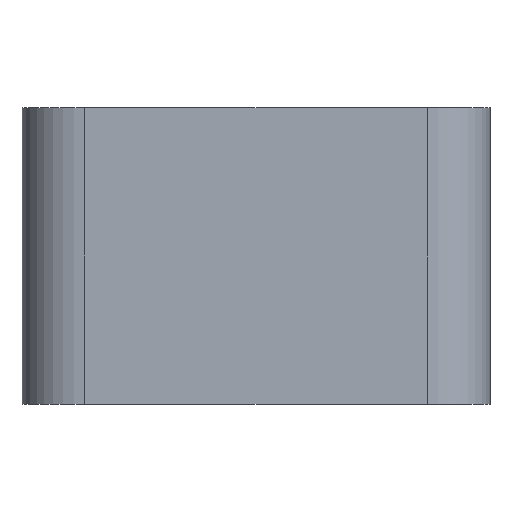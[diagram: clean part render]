
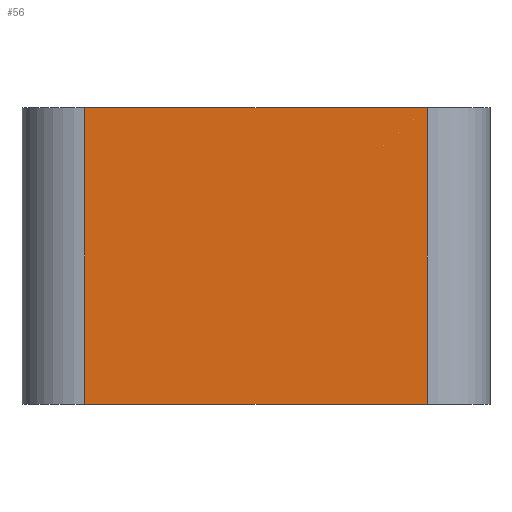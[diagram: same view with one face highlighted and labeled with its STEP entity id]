
A CAD part, front view. The second image highlights one B-rep face of the part: STEP entity #56.
In plain terms, the highlighted planar face has unit normal (0, -1, 0).
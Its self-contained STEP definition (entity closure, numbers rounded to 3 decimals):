
#2 = VECTOR ( 'NONE', #199, 1000. ) ;
#25 = DIRECTION ( 'NONE',  ( 0., 0., -1. ) ) ;
#33 = ORIENTED_EDGE ( 'NONE', *, *, #140, .F. ) ;
#41 = EDGE_LOOP ( 'NONE', ( #225, #214, #33, #204 ) ) ;
#56 = ADVANCED_FACE ( 'NONE', ( #150 ), #268, .F. ) ;
#57 = VECTOR ( 'NONE', #191, 1000. ) ;
#72 = DIRECTION ( 'NONE',  ( 0., 1., 0. ) ) ;
#110 = CARTESIAN_POINT ( 'NONE',  ( 0., -5.5, 26. ) ) ;
#112 = LINE ( 'NONE', #271, #113 ) ;
#113 = VECTOR ( 'NONE', #25, 1000. ) ;
#135 = CARTESIAN_POINT ( 'NONE',  ( 0., -5.5, 0. ) ) ;
#140 = EDGE_CURVE ( 'NONE', #238, #345, #164, .T. ) ;
#146 = DIRECTION ( 'NONE',  ( 0., 0., -1. ) ) ;
#150 = FACE_OUTER_BOUND ( 'NONE', #41, .T. ) ;
#155 = VERTEX_POINT ( 'NONE', #135 ) ;
#160 = LINE ( 'NONE', #260, #228 ) ;
#164 = LINE ( 'NONE', #110, #57 ) ;
#175 = DIRECTION ( 'NONE',  ( 0., 0., 1. ) ) ;
#186 = CARTESIAN_POINT ( 'NONE',  ( 30., -5.5, 0. ) ) ;
#191 = DIRECTION ( 'NONE',  ( 1., 0., 0. ) ) ;
#199 = DIRECTION ( 'NONE',  ( 1., 0., 0. ) ) ;
#204 = ORIENTED_EDGE ( 'NONE', *, *, #265, .T. ) ;
#214 = ORIENTED_EDGE ( 'NONE', *, *, #230, .F. ) ;
#221 = AXIS2_PLACEMENT_3D ( 'NONE', #311, #72, #175 ) ;
#225 = ORIENTED_EDGE ( 'NONE', *, *, #359, .T. ) ;
#228 = VECTOR ( 'NONE', #146, 1000. ) ;
#230 = EDGE_CURVE ( 'NONE', #345, #233, #112, .T. ) ;
#233 = VERTEX_POINT ( 'NONE', #186 ) ;
#238 = VERTEX_POINT ( 'NONE', #270 ) ;
#260 = CARTESIAN_POINT ( 'NONE',  ( 0., -5.5, 26. ) ) ;
#265 = EDGE_CURVE ( 'NONE', #238, #155, #160, .T. ) ;
#268 = PLANE ( 'NONE',  #221 ) ;
#270 = CARTESIAN_POINT ( 'NONE',  ( 0., -5.5, 26. ) ) ;
#271 = CARTESIAN_POINT ( 'NONE',  ( 30., -5.5, 26. ) ) ;
#292 = LINE ( 'NONE', #318, #2 ) ;
#311 = CARTESIAN_POINT ( 'NONE',  ( 0., -5.5, 26. ) ) ;
#318 = CARTESIAN_POINT ( 'NONE',  ( 0., -5.5, 0. ) ) ;
#343 = CARTESIAN_POINT ( 'NONE',  ( 30., -5.5, 26. ) ) ;
#345 = VERTEX_POINT ( 'NONE', #343 ) ;
#359 = EDGE_CURVE ( 'NONE', #155, #233, #292, .T. ) ;
